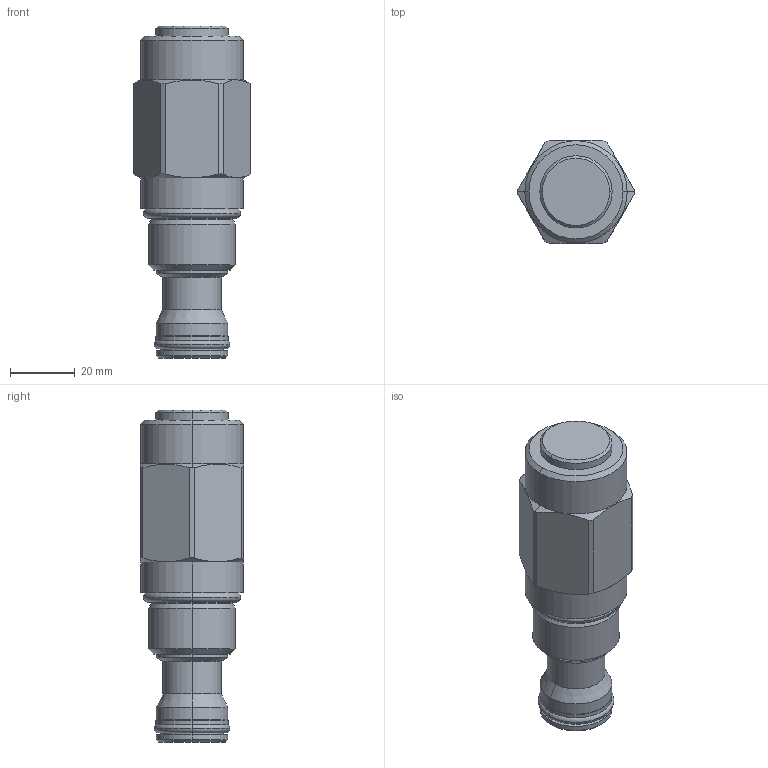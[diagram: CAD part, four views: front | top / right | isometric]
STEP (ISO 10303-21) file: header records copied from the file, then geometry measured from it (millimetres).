
FILE_DESCRIPTION((''),'2;1');
FILE_NAME('RV12-2XF','2014-04-10T',('mg1'),(''),'PRO/ENGINEER BY PARAMETRIC TECHNOLOGY CORPORATION, 2013230','PRO/ENGINEER BY PARAMETRIC TECHNOLOGY CORPORATION, 2013230','');
FILE_SCHEMA(('CONFIG_CONTROL_DESIGN'));
Length unit declared in the file: millimetre
Products named in the file (1): RV12-2XF
Bounding box: 35.81 x 31.75 x 102.21 mm (x, y, z)
Volume: 64663 mm3; surface area: 11671.4 mm2
Topology: 1 solids, 1 shells, 86 faces, 184 edges, 104 vertices
Faces by surface type: cylinder 34, cone 24, torus 16, plane 12
Entity records: 2420 total; most frequent: CARTESIAN_POINT 472, DIRECTION 452, ORIENTED_EDGE 368, AXIS2_PLACEMENT_3D 194, EDGE_CURVE 184, CIRCLE 108, VERTEX_POINT 104, EDGE_LOOP 90
